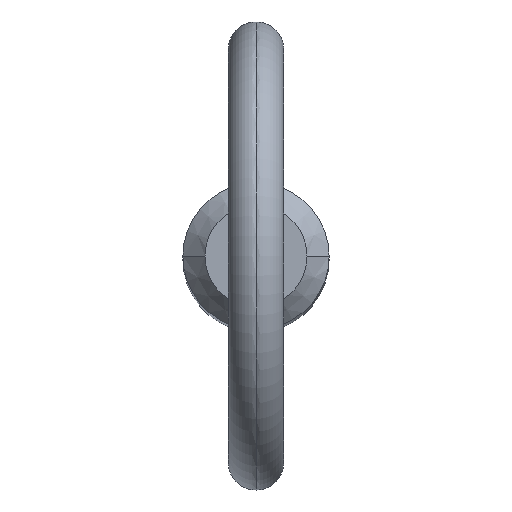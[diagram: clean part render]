
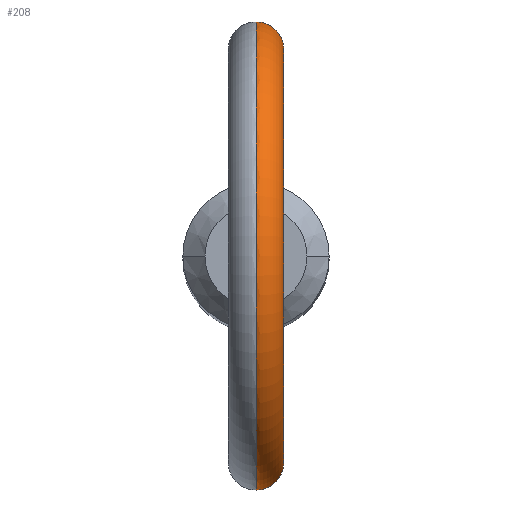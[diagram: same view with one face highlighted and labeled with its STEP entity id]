
A CAD part, top view. The second image highlights one B-rep face of the part: STEP entity #208.
In plain terms, the highlighted toroidal (fillet/blend) face has major radius 11.2 mm and minor radius 1.5 mm.
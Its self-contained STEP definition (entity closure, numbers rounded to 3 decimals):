
#7 = B_SPLINE_CURVE_WITH_KNOTS ( 'NONE', 3,
 ( #54, #302, #217, #219, #13, #301, #137, #96, #334, #294, #372, #48, #443, #407, #404, #487, #448, #101, #297, #215, #335, #102, #330, #367, #134, #403 ),
 .UNSPECIFIED., .F., .F.,
 ( 4, 2, 2, 2, 2, 2, 2, 2, 2, 2, 2, 2, 4 ),
 ( 0.004, 0.005, 0.005, 0.005, 0.006, 0.006, 0.007, 0.007, 0.007, 0.008, 0.008, 0.008, 0.009 ),
 .UNSPECIFIED. ) ;
#8 = CARTESIAN_POINT ( 'NONE',  ( 0., 0., 88.9 ) ) ;
#10 = EDGE_CURVE ( 'NONE', #264, #343, #483, .T. ) ;
#13 = CARTESIAN_POINT ( 'NONE',  ( 0.498, -3.935, 79.944 ) ) ;
#27 = CARTESIAN_POINT ( 'NONE',  ( 1.344, 3.731, 77.603 ) ) ;
#41 = TOROIDAL_SURFACE ( 'NONE', #87, 11.2, 1.5 ) ;
#48 = CARTESIAN_POINT ( 'NONE',  ( 1.479, -3.679, 78.607 ) ) ;
#54 = CARTESIAN_POINT ( 'NONE',  ( 0., -3.965, 80.047 ) ) ;
#56 = EDGE_CURVE ( 'NONE', #343, #270, #116, .T. ) ;
#70 = CARTESIAN_POINT ( 'NONE',  ( 0., 0., 88.9 ) ) ;
#73 = CARTESIAN_POINT ( 'NONE',  ( 0., 3.965, 80.047 ) ) ;
#80 = CARTESIAN_POINT ( 'NONE',  ( 0.204, 3.965, 76.835 ) ) ;
#87 = AXIS2_PLACEMENT_3D ( 'NONE', #8, #261, #138 ) ;
#96 = CARTESIAN_POINT ( 'NONE',  ( 1.186, -3.786, 79.359 ) ) ;
#101 = CARTESIAN_POINT ( 'NONE',  ( 1.346, -3.73, 77.608 ) ) ;
#102 = CARTESIAN_POINT ( 'NONE',  ( 0.782, -3.888, 77.037 ) ) ;
#116 = CIRCLE ( 'NONE', #125, 9.7 ) ;
#120 = CARTESIAN_POINT ( 'NONE',  ( 0.411, 3.948, 79.991 ) ) ;
#125 = AXIS2_PLACEMENT_3D ( 'NONE', #70, #315, #347 ) ;
#134 = CARTESIAN_POINT ( 'NONE',  ( 0.205, -3.965, 76.835 ) ) ;
#137 = CARTESIAN_POINT ( 'NONE',  ( 0.925, -3.858, 79.668 ) ) ;
#138 = DIRECTION ( 'NONE',  ( 0., 0., -1. ) ) ;
#153 = CARTESIAN_POINT ( 'NONE',  ( 0.206, 3.965, 80.047 ) ) ;
#164 = EDGE_CURVE ( 'NONE', #264, #374, #421, .T. ) ;
#172 = AXIS2_PLACEMENT_3D ( 'NONE', #327, #174, #486 ) ;
#174 = DIRECTION ( 'NONE',  ( 1., 0., 0. ) ) ;
#186 = CARTESIAN_POINT ( 'NONE',  ( 0., 3.965, 80.047 ) ) ;
#196 = CARTESIAN_POINT ( 'NONE',  ( 1.441, 3.695, 78.808 ) ) ;
#208 = ADVANCED_FACE ( 'NONE', ( #431 ), #41, .T. ) ;
#215 = CARTESIAN_POINT ( 'NONE',  ( 1.028, -3.83, 77.215 ) ) ;
#216 = EDGE_CURVE ( 'NONE', #270, #374, #7, .T. ) ;
#217 = CARTESIAN_POINT ( 'NONE',  ( 0.205, -3.961, 80.034 ) ) ;
#219 = CARTESIAN_POINT ( 'NONE',  ( 0.404, -3.946, 79.982 ) ) ;
#221 = CARTESIAN_POINT ( 'NONE',  ( 0., 3.965, 76.835 ) ) ;
#235 = CARTESIAN_POINT ( 'NONE',  ( 0.769, 3.894, 79.801 ) ) ;
#239 = CARTESIAN_POINT ( 'NONE',  ( 0.41, 3.948, 76.874 ) ) ;
#241 = CARTESIAN_POINT ( 'NONE',  ( 1.447, 3.692, 77.893 ) ) ;
#244 = CARTESIAN_POINT ( 'NONE',  ( 0.782, 3.888, 77.037 ) ) ;
#261 = DIRECTION ( 'NONE',  ( 1., 0., 0. ) ) ;
#264 = VERTEX_POINT ( 'NONE', #221 ) ;
#267 = CARTESIAN_POINT ( 'NONE',  ( 0., -3.965, 76.835 ) ) ;
#270 = VERTEX_POINT ( 'NONE', #498 ) ;
#282 = CARTESIAN_POINT ( 'NONE',  ( 1.026, 3.831, 77.213 ) ) ;
#284 = CARTESIAN_POINT ( 'NONE',  ( 1.503, 3.669, 78.298 ) ) ;
#287 = EDGE_LOOP ( 'NONE', ( #366, #388, #373, #326 ) ) ;
#294 = CARTESIAN_POINT ( 'NONE',  ( 1.404, -3.708, 78.901 ) ) ;
#297 = CARTESIAN_POINT ( 'NONE',  ( 1.237, -3.77, 77.431 ) ) ;
#301 = CARTESIAN_POINT ( 'NONE',  ( 0.77, -3.894, 79.8 ) ) ;
#302 = CARTESIAN_POINT ( 'NONE',  ( 0.102, -3.965, 80.047 ) ) ;
#311 = CARTESIAN_POINT ( 'NONE',  ( 0.927, 3.858, 79.667 ) ) ;
#314 = CARTESIAN_POINT ( 'NONE',  ( 0., 3.965, 76.835 ) ) ;
#315 = DIRECTION ( 'NONE',  ( 1., 0., 0. ) ) ;
#326 = ORIENTED_EDGE ( 'NONE', *, *, #56, .F. ) ;
#327 = CARTESIAN_POINT ( 'NONE',  ( 0., 0., 88.9 ) ) ;
#330 = CARTESIAN_POINT ( 'NONE',  ( 0.693, -3.905, 76.99 ) ) ;
#334 = CARTESIAN_POINT ( 'NONE',  ( 1.291, -3.75, 79.183 ) ) ;
#335 = CARTESIAN_POINT ( 'NONE',  ( 0.949, -3.851, 77.149 ) ) ;
#343 = VERTEX_POINT ( 'NONE', #186 ) ;
#347 = DIRECTION ( 'NONE',  ( 0., 0., -1. ) ) ;
#354 = CARTESIAN_POINT ( 'NONE',  ( 1.499, 3.671, 78.194 ) ) ;
#366 = ORIENTED_EDGE ( 'NONE', *, *, #10, .F. ) ;
#367 = CARTESIAN_POINT ( 'NONE',  ( 0.409, -3.948, 76.874 ) ) ;
#372 = CARTESIAN_POINT ( 'NONE',  ( 1.434, -3.697, 78.805 ) ) ;
#373 = ORIENTED_EDGE ( 'NONE', *, *, #216, .F. ) ;
#374 = VERTEX_POINT ( 'NONE', #267 ) ;
#387 = CARTESIAN_POINT ( 'NONE',  ( 1.488, 3.675, 78.605 ) ) ;
#388 = ORIENTED_EDGE ( 'NONE', *, *, #164, .T. ) ;
#390 = CARTESIAN_POINT ( 'NONE',  ( 1.236, 3.77, 77.429 ) ) ;
#394 = CARTESIAN_POINT ( 'NONE',  ( 1.291, 3.75, 79.184 ) ) ;
#403 = CARTESIAN_POINT ( 'NONE',  ( 0., -3.965, 76.835 ) ) ;
#404 = CARTESIAN_POINT ( 'NONE',  ( 1.499, -3.671, 78.197 ) ) ;
#407 = CARTESIAN_POINT ( 'NONE',  ( 1.503, -3.669, 78.299 ) ) ;
#421 = CIRCLE ( 'NONE', #172, 12.7 ) ;
#431 = FACE_OUTER_BOUND ( 'NONE', #287, .T. ) ;
#443 = CARTESIAN_POINT ( 'NONE',  ( 1.493, -3.673, 78.504 ) ) ;
#448 = CARTESIAN_POINT ( 'NONE',  ( 1.447, -3.692, 77.893 ) ) ;
#467 = CARTESIAN_POINT ( 'NONE',  ( 0.949, 3.851, 77.149 ) ) ;
#483 = B_SPLINE_CURVE_WITH_KNOTS ( 'NONE', 3,
 ( #314, #80, #239, #500, #244, #467, #282, #390, #27, #241, #507, #354, #284, #387, #196, #394, #505, #311, #235, #120, #153, #73 ),
 .UNSPECIFIED., .F., .F.,
 ( 4, 2, 2, 2, 2, 2, 2, 2, 2, 2, 4 ),
 ( 0.001, 0.001, 0.002, 0.002, 0.003, 0.003, 0.003, 0.004, 0.004, 0.005, 0.006 ),
 .UNSPECIFIED. ) ;
#486 = DIRECTION ( 'NONE',  ( 0., 0., -1. ) ) ;
#487 = CARTESIAN_POINT ( 'NONE',  ( 1.471, -3.682, 77.994 ) ) ;
#498 = CARTESIAN_POINT ( 'NONE',  ( 0., -3.965, 80.047 ) ) ;
#500 = CARTESIAN_POINT ( 'NONE',  ( 0.691, 3.905, 76.989 ) ) ;
#505 = CARTESIAN_POINT ( 'NONE',  ( 1.185, 3.786, 79.36 ) ) ;
#507 = CARTESIAN_POINT ( 'NONE',  ( 1.47, 3.682, 77.992 ) ) ;
